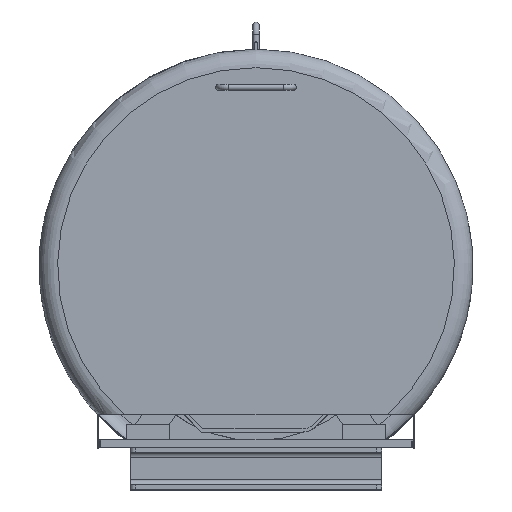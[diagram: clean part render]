
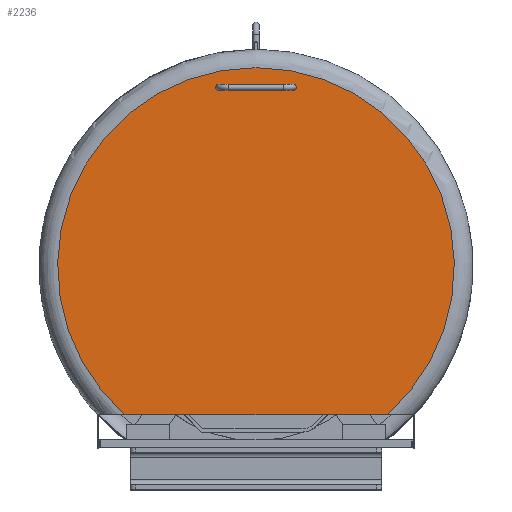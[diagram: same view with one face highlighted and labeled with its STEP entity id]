
A CAD part, top view. The second image highlights one B-rep face of the part: STEP entity #2236.
In plain terms, the highlighted planar face has unit normal (0, 0, 1).
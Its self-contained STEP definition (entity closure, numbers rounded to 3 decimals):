
#1285=CARTESIAN_POINT('',(-65.,343.5,1203.));
#1286=VERTEX_POINT('',#1285);
#1287=CARTESIAN_POINT('',(-60.,343.5,1203.));
#1288=DIRECTION('',(0.0,0.0,-1.0));
#1289=DIRECTION('',(1.0,0.0,0.0));
#1290=AXIS2_PLACEMENT_3D('',#1287,#1288,#1289);
#1291=CIRCLE('',#1290,5.0);
#1292=EDGE_CURVE('',#1286,#1286,#1291,.T.);
#1376=CARTESIAN_POINT('',(65.,343.5,1203.));
#1377=VERTEX_POINT('',#1376);
#1378=CARTESIAN_POINT('',(60.,343.5,1203.));
#1379=DIRECTION('',(0.0,0.0,-1.0));
#1380=DIRECTION('',(-1.0,0.0,0.0));
#1381=AXIS2_PLACEMENT_3D('',#1378,#1379,#1380);
#1382=CIRCLE('',#1381,5.0);
#1383=EDGE_CURVE('',#1377,#1377,#1382,.T.);
#1747=CARTESIAN_POINT('',(211.66,-185.,1203.));
#1748=VERTEX_POINT('',#1747);
#1770=CARTESIAN_POINT('',(-211.66,-185.,1203.));
#1771=VERTEX_POINT('',#1770);
#1772=CARTESIAN_POINT('',(-211.66,-185.,1203.));
#1773=DIRECTION('',(1.0,0.0,0.0));
#1774=VECTOR('',#1773,423.32);
#1775=LINE('',#1772,#1774);
#1776=EDGE_CURVE('',#1771,#1748,#1775,.T.);
#2215=CARTESIAN_POINT('',(0.,215.,1203.));
#2216=DIRECTION('',(0.0,0.0,1.0));
#2217=DIRECTION('',(1.0,0.0,0.0));
#2218=AXIS2_PLACEMENT_3D('',#2215,#2216,#2217);
#2219=PLANE('',#2218);
#2220=ORIENTED_EDGE('',*,*,#1776,.T.);
#2221=CARTESIAN_POINT('',(0.,55.,1203.));
#2222=DIRECTION('',(0.0,0.0,-1.0));
#2223=DIRECTION('',(0.0,1.0,0.0));
#2224=AXIS2_PLACEMENT_3D('',#2221,#2222,#2223);
#2225=CIRCLE('',#2224,320.0);
#2226=EDGE_CURVE('',#1771,#1748,#2225,.T.);
#2227=ORIENTED_EDGE('',*,*,#2226,.F.);
#2228=EDGE_LOOP('',(#2220,#2227));
#2229=FACE_OUTER_BOUND('',#2228,.T.);
#2230=ORIENTED_EDGE('',*,*,#1292,.T.);
#2231=EDGE_LOOP('',(#2230));
#2232=FACE_BOUND('',#2231,.T.);
#2233=ORIENTED_EDGE('',*,*,#1383,.T.);
#2234=EDGE_LOOP('',(#2233));
#2235=FACE_BOUND('',#2234,.T.);
#2236=ADVANCED_FACE('',(#2229,#2232,#2235),#2219,.T.);
